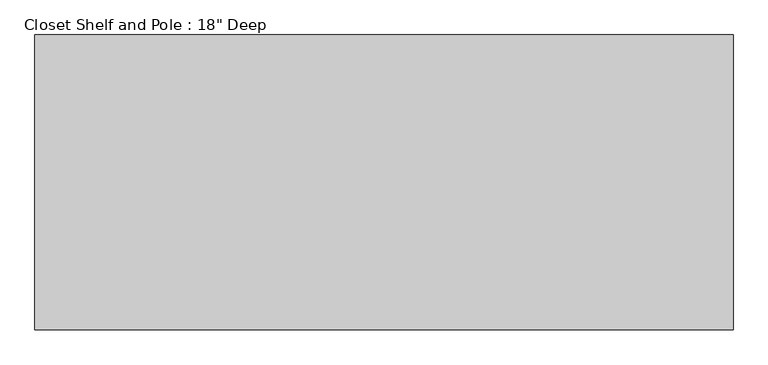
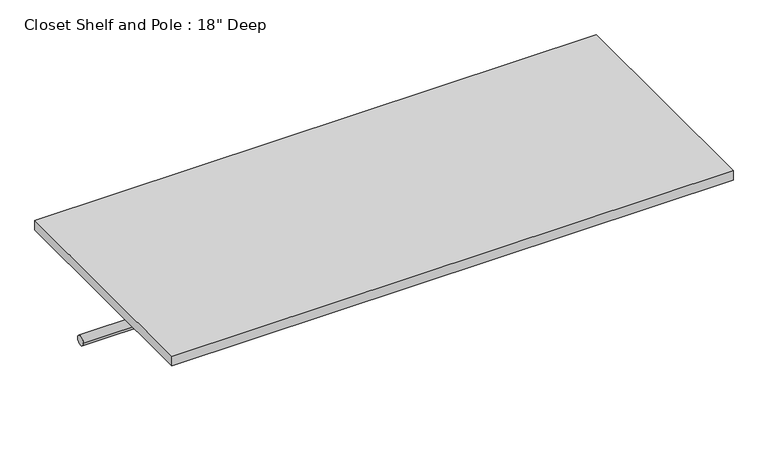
"""IFC4 building model written with IfcOpenShell, lengths in millimetres: proxy geometry."""

from ifc_helpers import new_model, si_unit, point, frame, frame_2d, origin, place, context, project, spatial, polyline, circle_curve, trimmed, segment, composite_curve, outline, extrude, source, transform, mapped, element, save


def proxy_ac6dd0d2(model_context):
    return source(origin(), model_context, "Body", "SweptSolid", [
        extrude(outline(composite_curve([segment(trimmed(circle_curve(frame_2d((304.8, 1676.4)), 9.525), [point((314.325, 1676.4))], [point((295.275, 1676.4))], False, "CARTESIAN"), True, "CONTINUOUS"), segment(trimmed(circle_curve(frame_2d((304.8, 1676.4)), 9.525), [point((295.275, 1676.4))], [point((314.325, 1676.4))], False, "CARTESIAN"), True, "CONTINUOUS")], self_intersect=False)), frame((0.0, 0.0, 0.0), z_axis=(1.0, 0.0, 0.0), x_axis=(0.0, 1.0, 0.0)), (0.0, 0.0, 1.0), 1082.2643852),
        extrude(outline(polyline([(1082.2643852, 0.0), (0.0, 0.0), (0.0, 457.2), (1082.2643852, 457.2), (1082.2643852, 0.0)])), frame((0.0, 0.0, 1809.75), z_axis=(0.0, 0.0, 1.0), x_axis=(1.0, 0.0, 0.0)), (0.0, 0.0, 1.0), 19.05),
    ])


if __name__ == "__main__":
    model = new_model("IFC4")
    model_context = context("Model", 3, world=origin())
    ifc_project = project(units=[si_unit("LENGTHUNIT", "METRE", prefix="MILLI")], contexts=[model_context])
    site = spatial("IfcSite", under=ifc_project)
    building = spatial("IfcBuilding", under=site)
    placement = place(None, origin())
    proxy_shape = proxy_ac6dd0d2(model_context)
    element("IfcBuildingElementProxy", 1, Name="Closet Shelf and Pole : 18\" Deep", ObjectType="Closet Shelf and Pole : 18\" Deep", at=placement, inside=building, context=model_context, shape_type="MappedRepresentation", body=[
        mapped(proxy_shape, transform((0.0, 0.0, 0.0), x_axis=(1.0, 0.0, 0.0), y_axis=(0.0, 1.0, 0.0), z_axis=(0.0, 0.0, 1.0))),
    ])
    save(model, "model.ifc")
